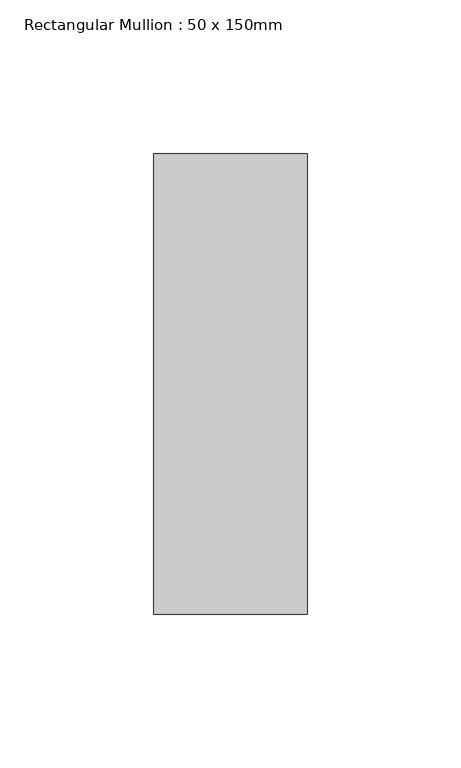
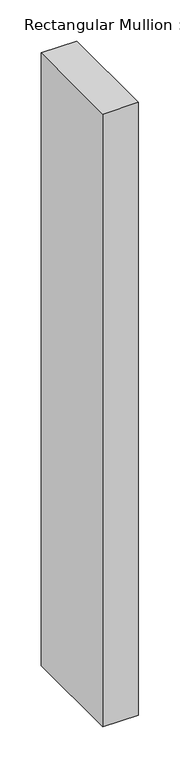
"""IFC4 building model written with IfcOpenShell, lengths in millimetres: member geometry, Rectangular Mullion : 50 x 150mm."""

from ifc_helpers import new_model, si_unit, frame, origin, place, context, project, spatial, polyline, outline, extrude, source, transform, mapped, element, save


def rectangular_mullion_50_x_150mm_e3280255(model_context):
    return source(origin(), model_context, "Body", "SweptSolid", [
        extrude(outline(polyline([(0.0, 75.0), (0.0, -75.0), (-50.0, -75.0), (-50.0, 75.0), (0.0, 75.0)])), frame((0.0, 0.0, -908.8950495), z_axis=(0.0, 0.0, 1.0), x_axis=(1.0, 0.0, 0.0)), (0.0, 0.0, 1.0), 908.8950495),
    ])


if __name__ == "__main__":
    model = new_model("IFC4")
    model_context = context("Model", 3, world=origin())
    ifc_project = project(units=[si_unit("LENGTHUNIT", "METRE", prefix="MILLI")], contexts=[model_context])
    site = spatial("IfcSite", under=ifc_project)
    building = spatial("IfcBuilding", under=site)
    placement = place(None, origin())
    rectangular_mullion_50_x_150mm_shape = rectangular_mullion_50_x_150mm_e3280255(model_context)
    element("IfcMember", 1, ObjectType="Rectangular Mullion : 50 x 150mm", at=placement, inside=building, context=model_context, shape_type="MappedRepresentation", body=[
        mapped(rectangular_mullion_50_x_150mm_shape, transform((0.0, 0.0, 0.0), x_axis=(1.0, 0.0, 0.0), y_axis=(0.0, 1.0, 0.0), z_axis=(0.0, 0.0, 1.0))),
    ])
    save(model, "model.ifc")
